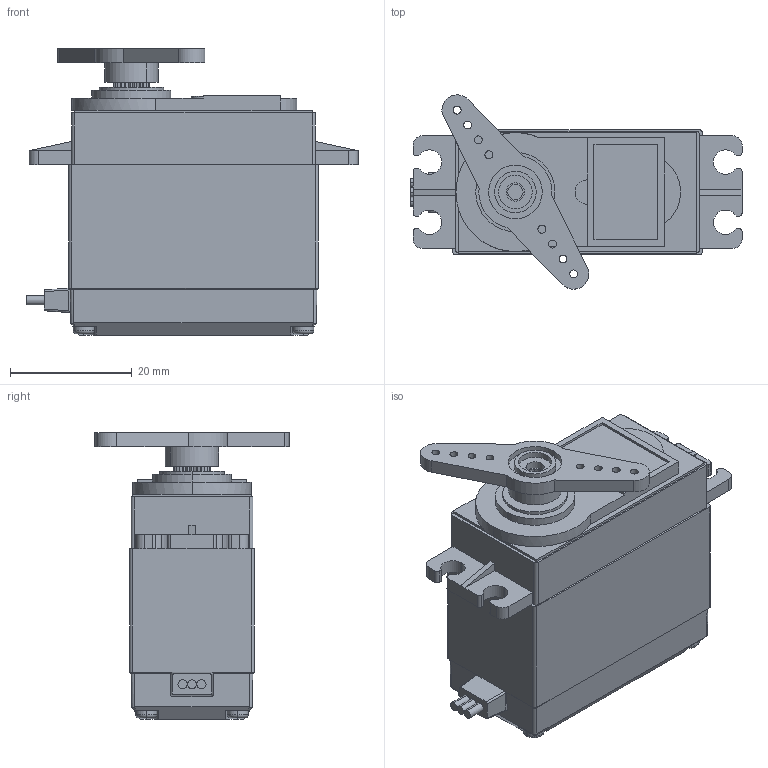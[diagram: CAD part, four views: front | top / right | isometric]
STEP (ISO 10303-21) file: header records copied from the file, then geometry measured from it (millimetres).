
FILE_DESCRIPTION (( 'STEP AP214' ), '1' );
FILE_NAME ('BlackServo_MG996R SBORKA.STEP', '2025-09-17T13:02:37', ( '' ), ( '' ), 'SwSTEP 2.0', 'SolidWorks 2025', '' );
FILE_SCHEMA (( 'AUTOMOTIVE_DESIGN' ));
Length unit declared in the file: millimetre
Products named in the file (4): Servo MG996R_По умолчанию; Servo MG996R arm01; Servo MG996R Shaft; BlackServo_MG996R SBORKA
Assembly tree (3 placements, depth 2):
  BlackServo_MG996R SBORKA
    Servo MG996R_По умолчанию
    Servo MG996R Shaft
    Servo MG996R arm01
Bounding box: 54.5 x 31.89 x 47 mm (x, y, z)
Volume: 32959.9 mm3; surface area: 8578.3 mm2
Topology: 7 solids, 7 shells, 420 faces, 1085 edges, 697 vertices
Faces by surface type: plane 306, cylinder 102, torus 8, cone 4
Entity records: 12838 total; most frequent: CARTESIAN_POINT 2328, ORIENTED_EDGE 2170, DIRECTION 2125, EDGE_CURVE 1085, LINE 817, VECTOR 817, VERTEX_POINT 697, AXIS2_PLACEMENT_3D 654
